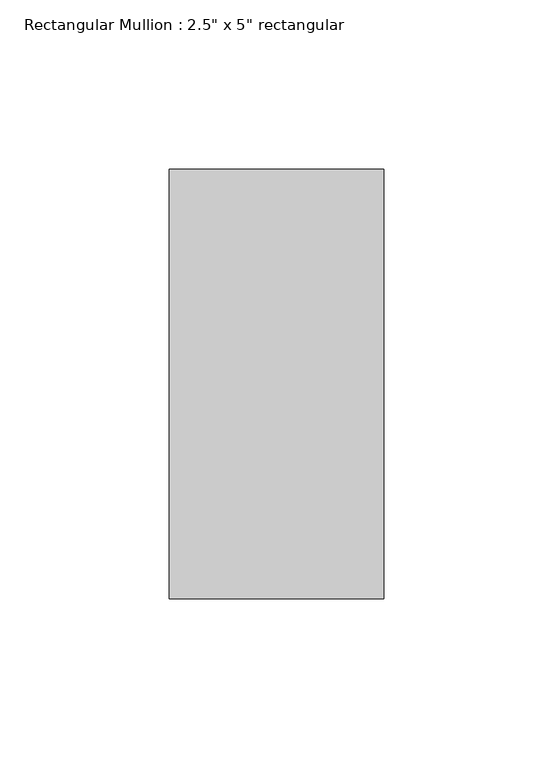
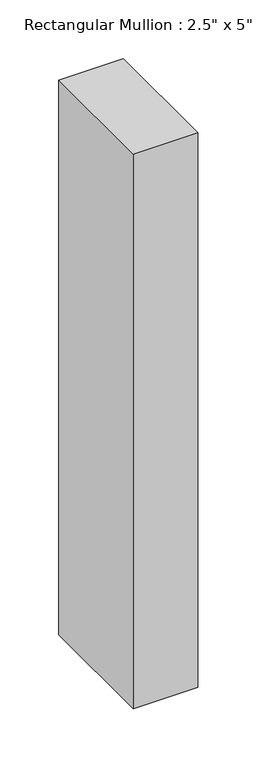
"""IFC4 building model written with IfcOpenShell, lengths in millimetres: member geometry."""

from ifc_helpers import new_model, si_unit, frame, origin, place, context, project, spatial, polyline, outline, extrude, source, transform, mapped, element, save


def member_c58220af(model_context):
    return source(origin(), model_context, "Body", "SweptSolid", [
        extrude(outline(polyline([(0.0, 63.5), (0.0, -63.5), (-63.5, -63.5), (-63.5, 63.5), (0.0, 63.5)])), frame((0.0, 0.0, -576.6628483), z_axis=(0.0, 0.0, 1.0), x_axis=(1.0, 0.0, 0.0)), (0.0, 0.0, 1.0), 576.6628483),
    ])


if __name__ == "__main__":
    model = new_model("IFC4")
    model_context = context("Model", 3, world=origin())
    ifc_project = project(units=[si_unit("LENGTHUNIT", "METRE", prefix="MILLI")], contexts=[model_context])
    site = spatial("IfcSite", under=ifc_project)
    building = spatial("IfcBuilding", under=site)
    placement = place(None, origin())
    member_shape = member_c58220af(model_context)
    element("IfcMember", 1, ObjectType="Rectangular Mullion : 2.5\" x 5\" rectangular", at=placement, inside=building, context=model_context, shape_type="MappedRepresentation", body=[
        mapped(member_shape, transform((0.0, 0.0, 0.0), x_axis=(1.0, 0.0, 0.0), y_axis=(0.0, 1.0, 0.0), z_axis=(0.0, 0.0, 1.0))),
    ])
    save(model, "model.ifc")
